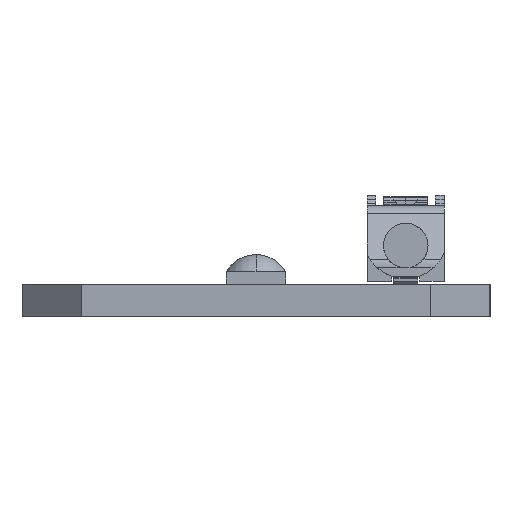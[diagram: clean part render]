
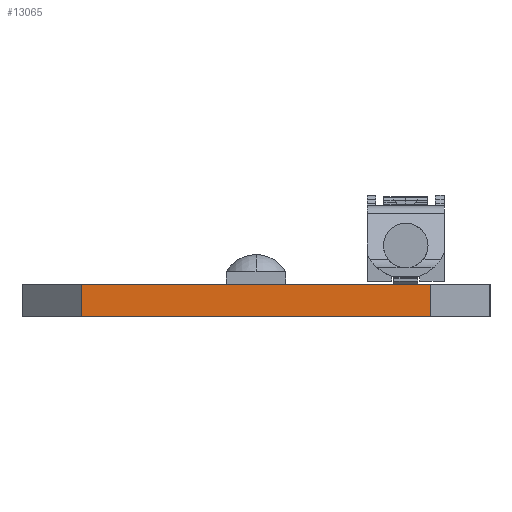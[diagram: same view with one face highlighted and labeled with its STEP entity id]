
A CAD part, left-side view. The second image highlights one B-rep face of the part: STEP entity #13065.
In plain terms, the highlighted planar face has unit normal (-1, 0, 0).
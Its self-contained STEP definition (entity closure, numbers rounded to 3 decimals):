
#7258=DIRECTION('',(0.,-1.,0.));
#7259=VECTOR('',#7258,17.6);
#7260=CARTESIAN_POINT('',(-139.8,8.8,1.65));
#7261=LINE('',#7260,#7259);
#7575=DIRECTION('',(0.,0.,-1.));
#7576=VECTOR('',#7575,1.65);
#7577=CARTESIAN_POINT('',(-139.8,-8.8,1.65));
#7578=LINE('',#7577,#7576);
#7582=DIRECTION('',(0.,1.,0.));
#7583=VECTOR('',#7582,17.6);
#7584=CARTESIAN_POINT('',(-139.8,-8.8,0.));
#7585=LINE('',#7584,#7583);
#7589=DIRECTION('',(0.,0.,-1.));
#7590=VECTOR('',#7589,1.65);
#7591=CARTESIAN_POINT('',(-139.8,8.8,1.65));
#7592=LINE('',#7591,#7590);
#11018=CARTESIAN_POINT('',(-139.8,-8.8,0.));
#11020=VERTEX_POINT('',#11018);
#11055=CARTESIAN_POINT('',(-139.8,8.8,0.));
#11056=VERTEX_POINT('',#11055);
#11065=CARTESIAN_POINT('',(-139.8,-8.8,1.65));
#11066=VERTEX_POINT('',#11065);
#11069=CARTESIAN_POINT('',(-139.8,8.8,1.65));
#11070=VERTEX_POINT('',#11069);
#13052=CARTESIAN_POINT('',(-139.8,0.,0.825));
#13053=DIRECTION('',(1.,0.,0.));
#13054=DIRECTION('',(0.,0.,1.));
#13055=AXIS2_PLACEMENT_3D('',#13052,#13053,#13054);
#13056=PLANE('',#13055);
#13058=ORIENTED_EDGE('',*,*,#13057,.F.);
#13059=ORIENTED_EDGE('',*,*,#12868,.T.);
#13060=ORIENTED_EDGE('',*,*,#13036,.T.);
#13062=ORIENTED_EDGE('',*,*,#13061,.T.);
#13063=EDGE_LOOP('',(#13058,#13059,#13060,#13062));
#13064=FACE_OUTER_BOUND('',#13063,.F.);
#12868=EDGE_CURVE('',#11070,#11066,#7261,.T.);
#13036=EDGE_CURVE('',#11066,#11020,#7578,.T.);
#13057=EDGE_CURVE('',#11070,#11056,#7592,.T.);
#13061=EDGE_CURVE('',#11020,#11056,#7585,.T.);
#13065=ADVANCED_FACE('',(#13064),#13056,.F.);
